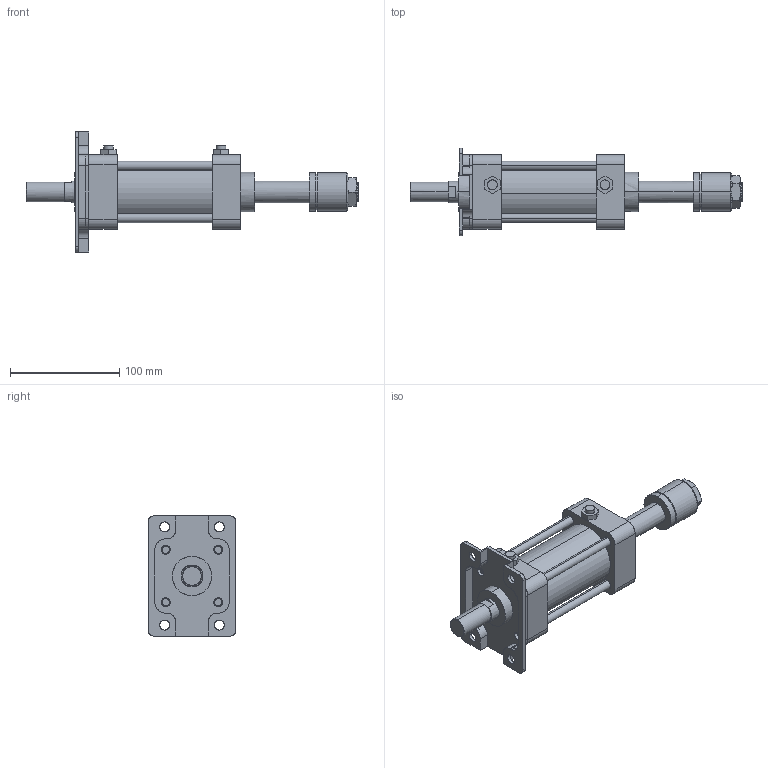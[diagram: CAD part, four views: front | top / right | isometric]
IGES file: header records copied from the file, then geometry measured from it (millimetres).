
Start section: SolidWorks IGES file using analytic representation for surfaces
Global section: file name: C:\Users\Toshiba\Desktop\KGA7-50#-50-A.IGS; native system: SolidWorks 2014; preprocessor: SolidWorks 2014; author: Toshiba; date: 160414.154910; units: millimetre
Bounding box: 304 x 80 x 110 mm (x, y, z)
Surface area: 137038.4 mm2 (no closed solid volume)
Topology: 0 solids, 0 shells, 447 faces, 7365 edges, 7361 vertices
Faces by surface type: bspline 239, revolution 208
